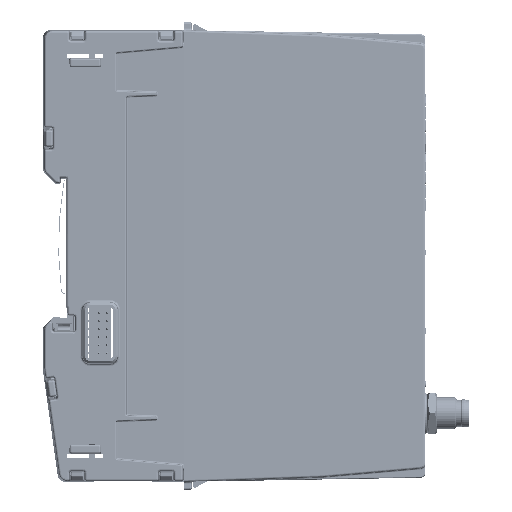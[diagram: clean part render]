
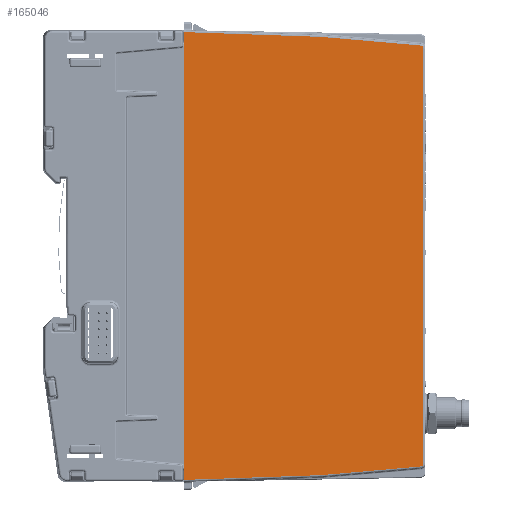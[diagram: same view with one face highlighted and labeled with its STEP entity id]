
A CAD part, left-side view. The second image highlights one B-rep face of the part: STEP entity #165046.
In plain terms, the highlighted planar face has unit normal (-1, -0.018, 0).
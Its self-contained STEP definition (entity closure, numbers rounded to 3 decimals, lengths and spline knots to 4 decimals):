
#3121=ELLIPSE('',#176251,0.0315,0.0315);
#3122=ELLIPSE('',#176252,0.0315,0.0315);
#12596=FACE_OUTER_BOUND('',#21461,.T.);
#21461=EDGE_LOOP('',(#133035,#133036,#133037,#133038,#133039,#133040,#133041,
#133042,#133043,#133044));
#40758=LINE('',#272966,#57757);
#40759=LINE('',#272972,#57758);
#40760=LINE('',#272974,#57759);
#40761=LINE('',#272976,#57760);
#40762=LINE('',#272977,#57761);
#40763=LINE('',#272979,#57762);
#40764=LINE('',#272983,#57763);
#40765=LINE('',#272986,#57764);
#57757=VECTOR('',#211078,39.3701);
#57758=VECTOR('',#211085,39.3701);
#57759=VECTOR('',#211086,39.3701);
#57760=VECTOR('',#211087,39.3701);
#57761=VECTOR('',#211088,39.3701);
#57762=VECTOR('',#211089,39.3701);
#57763=VECTOR('',#211092,39.3701);
#57764=VECTOR('',#211095,39.3701);
#72669=VERTEX_POINT('',#272964);
#72670=VERTEX_POINT('',#272965);
#72671=VERTEX_POINT('',#272970);
#72672=VERTEX_POINT('',#272971);
#72673=VERTEX_POINT('',#272973);
#72674=VERTEX_POINT('',#272975);
#72675=VERTEX_POINT('',#272978);
#72676=VERTEX_POINT('',#272980);
#72677=VERTEX_POINT('',#272982);
#72678=VERTEX_POINT('',#272984);
#93463=EDGE_CURVE('',#72669,#72670,#40758,.T.);
#93466=EDGE_CURVE('',#72671,#72672,#40759,.T.);
#93467=EDGE_CURVE('',#72672,#72673,#40760,.T.);
#93468=EDGE_CURVE('',#72674,#72673,#40761,.T.);
#93469=EDGE_CURVE('',#72674,#72669,#40762,.T.);
#93470=EDGE_CURVE('',#72670,#72675,#40763,.T.);
#93471=EDGE_CURVE('',#72675,#72676,#3121,.T.);
#93472=EDGE_CURVE('',#72676,#72677,#40764,.T.);
#93473=EDGE_CURVE('',#72677,#72678,#3122,.T.);
#93474=EDGE_CURVE('',#72678,#72671,#40765,.T.);
#133035=ORIENTED_EDGE('',*,*,#93466,.T.);
#133036=ORIENTED_EDGE('',*,*,#93467,.T.);
#133037=ORIENTED_EDGE('',*,*,#93468,.F.);
#133038=ORIENTED_EDGE('',*,*,#93469,.T.);
#133039=ORIENTED_EDGE('',*,*,#93463,.T.);
#133040=ORIENTED_EDGE('',*,*,#93470,.T.);
#133041=ORIENTED_EDGE('',*,*,#93471,.T.);
#133042=ORIENTED_EDGE('',*,*,#93472,.T.);
#133043=ORIENTED_EDGE('',*,*,#93473,.T.);
#133044=ORIENTED_EDGE('',*,*,#93474,.T.);
#149606=PLANE('',#176250);
#165046=ADVANCED_FACE('',(#12596),#149606,.T.);
#176250=AXIS2_PLACEMENT_3D('',#272969,#211083,#211084);
#176251=AXIS2_PLACEMENT_3D('',#272981,#211090,#211091);
#176252=AXIS2_PLACEMENT_3D('',#272985,#211093,#211094);
#211078=DIRECTION('',(0.017,-0.999,0.035));
#211083=DIRECTION('center_axis',(-1.,-0.017,
0.));
#211084=DIRECTION('ref_axis',(-0.017,1.,0.));
#211085=DIRECTION('',(-0.017,0.999,0.035));
#211086=DIRECTION('',(0.,0.,-1.));
#211087=DIRECTION('',(0.,0.,1.));
#211088=DIRECTION('',(0.,0.,-1.));
#211089=DIRECTION('',(0.017,-0.996,0.087));
#211090=DIRECTION('center_axis',(-1.,-0.017,
0.));
#211091=DIRECTION('ref_axis',(0.017,-1.,0.));
#211092=DIRECTION('',(0.,0.,1.));
#211093=DIRECTION('center_axis',(-1.,-0.017,
0.));
#211094=DIRECTION('ref_axis',(0.017,-1.,0.));
#211095=DIRECTION('',(-0.017,0.996,0.087));
#272964=CARTESIAN_POINT('',(-0.0227,-0.8686,-4.2421));
#272965=CARTESIAN_POINT('',(0.0007,-2.2063,-4.1954));
#272966=CARTESIAN_POINT('',(-0.0282,-0.5512,-4.2532));
#272969=CARTESIAN_POINT('Origin',(-0.0295,-0.4749,
-2.0669));
#272970=CARTESIAN_POINT('',(0.0007,-2.2063,0.0616));
#272971=CARTESIAN_POINT('',(-0.0227,-0.8686,0.1083));
#272972=CARTESIAN_POINT('',(-0.0282,-0.5512,0.1194));
#272973=CARTESIAN_POINT('',(-0.0227,-0.8686,-0.0312));
#272974=CARTESIAN_POINT('',(-0.0227,-0.8686,0.128));
#272975=CARTESIAN_POINT('',(-0.0227,-0.8686,-4.1027));
#272976=CARTESIAN_POINT('',(-0.0227,-0.8686,-7.5932));
#272977=CARTESIAN_POINT('',(-0.0227,-0.8686,0.128));
#272978=CARTESIAN_POINT('',(0.0174,-3.163,-4.1117));
#272979=CARTESIAN_POINT('',(-0.0261,-0.6728,-4.3296));
#272980=CARTESIAN_POINT('',(0.0179,-3.1918,-4.0803));
#272981=CARTESIAN_POINT('Origin',(0.0173,-3.1603,-4.0803));
#272982=CARTESIAN_POINT('',(0.0179,-3.1918,-0.0535));
#272983=CARTESIAN_POINT('',(0.0179,-3.1918,-0.0535));
#272984=CARTESIAN_POINT('',(0.0174,-3.163,-0.0221));
#272985=CARTESIAN_POINT('Origin',(0.0173,-3.1603,
-0.0535));
#272986=CARTESIAN_POINT('',(-0.0261,-0.6728,0.1957));
